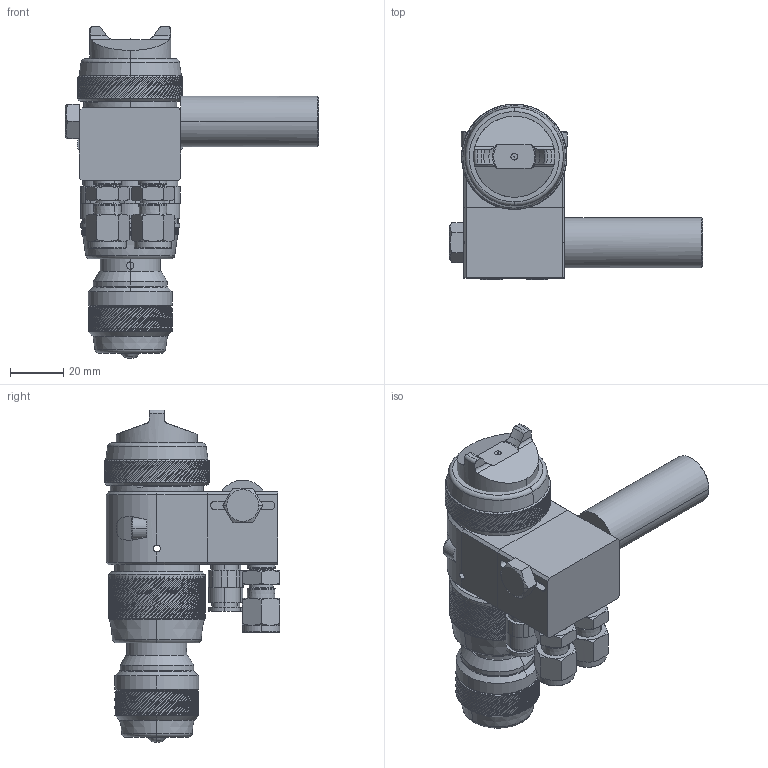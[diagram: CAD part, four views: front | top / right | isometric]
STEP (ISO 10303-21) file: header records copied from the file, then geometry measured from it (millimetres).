
FILE_DESCRIPTION((''),'2;1');
FILE_NAME('24B857-EN-V_PRT','2019-12-31T17:07:56',('qusrh3'),(''),'CREO PARAMETRIC BY PTC INC, 2019030','CREO PARAMETRIC BY PTC INC, 2019030','');
FILE_SCHEMA(('CONFIG_CONTROL_DESIGN'));
Length unit declared in the file: inch
Products named in the file (1): 24B857-EN-V_PRT
Bounding box: 95.09 x 65.86 x 124.63 mm (x, y, z)
Surface area: 43770.3 mm2 (no closed solid volume)
Topology: 0 solids, 42 shells, 1264 faces, 3591 edges, 2353 vertices
Faces by surface type: plane 775, cylinder 322, cone 142, torus 22, bspline 3
Entity records: 45204 total; most frequent: CARTESIAN_POINT 14900, ORIENTED_EDGE 7024, DIRECTION 5389, EDGE_CURVE 3589, VERTEX_POINT 2353, AXIS2_PLACEMENT_3D 2150, B_SPLINE_CURVE_WITH_KNOTS 1611, EDGE_LOOP 1264
